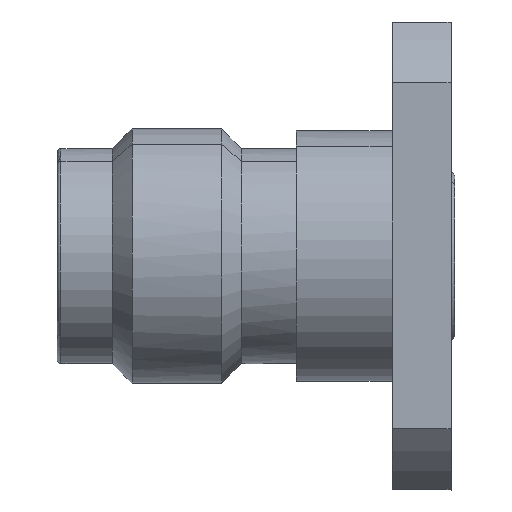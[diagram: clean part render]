
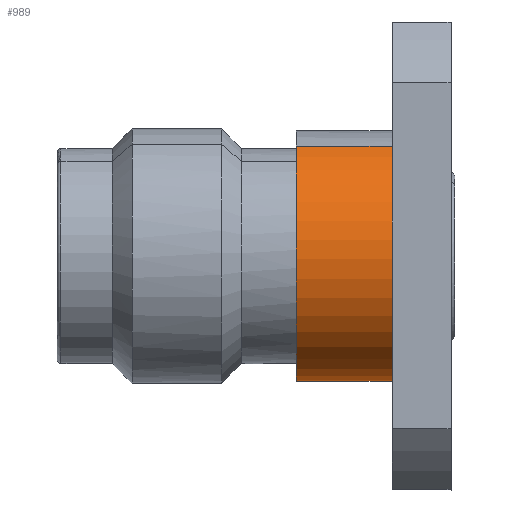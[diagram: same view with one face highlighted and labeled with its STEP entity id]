
A CAD part, top view. The second image highlights one B-rep face of the part: STEP entity #989.
In plain terms, the highlighted cylindrical face has radius 3.4 mm (diameter 6.8 mm), a partial arc.
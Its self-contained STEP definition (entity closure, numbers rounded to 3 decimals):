
#356=CARTESIAN_POINT('Control Point',(9.1,2.984,1.63)) ;
#357=CARTESIAN_POINT('Control Point',(9.1,2.811,1.947)) ;
#358=CARTESIAN_POINT('Control Point',(9.1,2.595,2.241)) ;
#359=CARTESIAN_POINT('Control Point',(9.1,2.342,2.505)) ;
#360=CARTESIAN_POINT('Control Point',(9.1,1.771,2.958)) ;
#361=CARTESIAN_POINT('Control Point',(9.1,1.102,3.247)) ;
#362=CARTESIAN_POINT('Control Point',(9.1,0.75,3.346)) ;
#363=CARTESIAN_POINT('Control Point',(9.1,0.028,3.448)) ;
#364=CARTESIAN_POINT('Control Point',(9.1,-0.696,3.358)) ;
#365=CARTESIAN_POINT('Control Point',(9.1,-1.049,3.265)) ;
#366=CARTESIAN_POINT('Control Point',(9.1,-1.723,2.987)) ;
#367=CARTESIAN_POINT('Control Point',(9.1,-2.301,2.542)) ;
#368=CARTESIAN_POINT('Control Point',(9.1,-2.559,2.283)) ;
#369=CARTESIAN_POINT('Control Point',(9.1,-2.999,1.702)) ;
#370=CARTESIAN_POINT('Control Point',(9.1,-3.272,1.026)) ;
#371=CARTESIAN_POINT('Control Point',(9.1,-3.363,0.671)) ;
#372=CARTESIAN_POINT('Control Point',(9.1,-3.444,-0.021)) ;
#373=CARTESIAN_POINT('Control Point',(9.1,-3.35,-0.71)) ;
#374=CARTESIAN_POINT('Control Point',(9.1,-3.265,-1.032)) ;
#375=CARTESIAN_POINT('Control Point',(9.1,-3.142,-1.341)) ;
#376=CARTESIAN_POINT('Control Point',(9.1,-2.984,-1.63)) ;
#377=CARTESIAN_POINT('Vertex',(9.1,2.984,1.63)) ;
#379=CARTESIAN_POINT('Vertex',(9.1,-2.984,-1.63)) ;
#947=CARTESIAN_POINT('Axis2P3D Location',(7.356,0.,0.)) ;
#952=CARTESIAN_POINT('Line Origine',(7.356,-2.984,-1.63)) ;
#956=CARTESIAN_POINT('Vertex',(6.499,-2.984,-1.63)) ;
#959=CARTESIAN_POINT('Line Origine',(7.356,2.984,1.63)) ;
#963=CARTESIAN_POINT('Vertex',(6.499,2.984,1.63)) ;
#967=CARTESIAN_POINT('Control Point',(6.499,2.984,1.63)) ;
#968=CARTESIAN_POINT('Control Point',(6.499,2.728,2.099)) ;
#969=CARTESIAN_POINT('Control Point',(6.499,2.38,2.517)) ;
#970=CARTESIAN_POINT('Control Point',(6.499,1.953,2.861)) ;
#971=CARTESIAN_POINT('Control Point',(6.499,0.987,3.363)) ;
#972=CARTESIAN_POINT('Control Point',(6.499,-0.097,3.463)) ;
#973=CARTESIAN_POINT('Control Point',(6.499,-0.642,3.404)) ;
#974=CARTESIAN_POINT('Control Point',(6.499,-1.68,3.076)) ;
#975=CARTESIAN_POINT('Control Point',(6.499,-2.517,2.38)) ;
#976=CARTESIAN_POINT('Control Point',(6.499,-2.861,1.953)) ;
#977=CARTESIAN_POINT('Control Point',(6.499,-3.363,0.987)) ;
#978=CARTESIAN_POINT('Control Point',(6.499,-3.463,-0.097)) ;
#979=CARTESIAN_POINT('Control Point',(6.499,-3.404,-0.642)) ;
#980=CARTESIAN_POINT('Control Point',(6.499,-3.24,-1.161)) ;
#981=CARTESIAN_POINT('Control Point',(6.499,-2.984,-1.63)) ;
#948=DIRECTION('Axis2P3D Direction',(1.,0.,0.)) ;
#949=DIRECTION('Axis2P3D XDirection',(0.,0.878,0.479)) ;
#953=DIRECTION('Vector Direction',(1.,0.,0.)) ;
#960=DIRECTION('Vector Direction',(1.,0.,0.)) ;
#950=AXIS2_PLACEMENT_3D('Cylinder Axis2P3D',#947,#948,#949) ;
#984=ORIENTED_EDGE('',*,*,#958,.T.) ;
#985=ORIENTED_EDGE('',*,*,#381,.F.) ;
#986=ORIENTED_EDGE('',*,*,#965,.F.) ;
#987=ORIENTED_EDGE('',*,*,#982,.T.) ;
#954=VECTOR('Line Direction',#953,1.) ;
#961=VECTOR('Line Direction',#960,1.) ;
#989=ADVANCED_FACE('',(#988),#951,.T.) ;
#355=B_SPLINE_CURVE_WITH_KNOTS('',5,(#356,#357,#358,#359,#360,#361,#362,#363,#364,#365,#366,#367,#368,#369,#370,#371,#372,#373,#374,#375,#376),.UNSPECIFIED.,.F.,.U.,(6,3,3,3,3,3,6),(0.,2.555,5.11,7.665,10.22,12.775,15.106),.UNSPECIFIED.) ;
#966=B_SPLINE_CURVE_WITH_KNOTS('',5,(#967,#968,#969,#970,#971,#972,#973,#974,#975,#976,#977,#978,#979,#980,#981),.UNSPECIFIED.,.F.,.U.,(6,3,3,3,6),(-5.341,-2.67,0.,2.67,5.341),.UNSPECIFIED.) ;
#951=CYLINDRICAL_SURFACE('generated cylinder',#950,3.4) ;
#381=EDGE_CURVE('',#378,#380,#355,.T.) ;
#958=EDGE_CURVE('',#957,#380,#955,.T.) ;
#965=EDGE_CURVE('',#964,#378,#962,.T.) ;
#982=EDGE_CURVE('',#964,#957,#966,.T.) ;
#983=EDGE_LOOP('',(#984,#985,#986,#987)) ;
#988=FACE_OUTER_BOUND('',#983,.T.) ;
#955=LINE('Line',#952,#954) ;
#962=LINE('Line',#959,#961) ;
#378=VERTEX_POINT('',#377) ;
#380=VERTEX_POINT('',#379) ;
#957=VERTEX_POINT('',#956) ;
#964=VERTEX_POINT('',#963) ;
